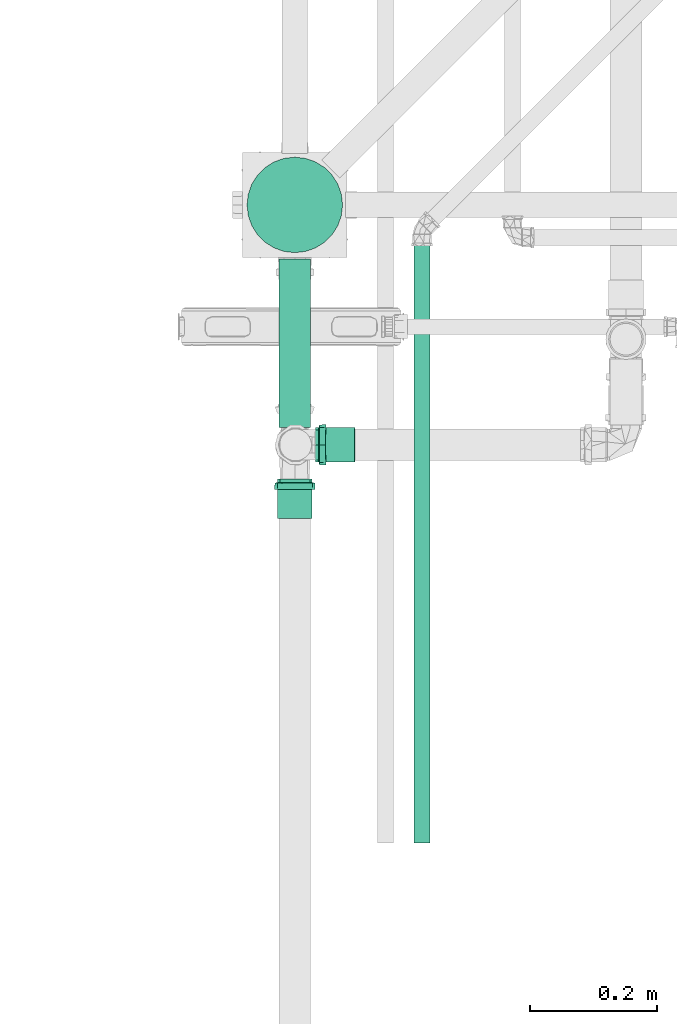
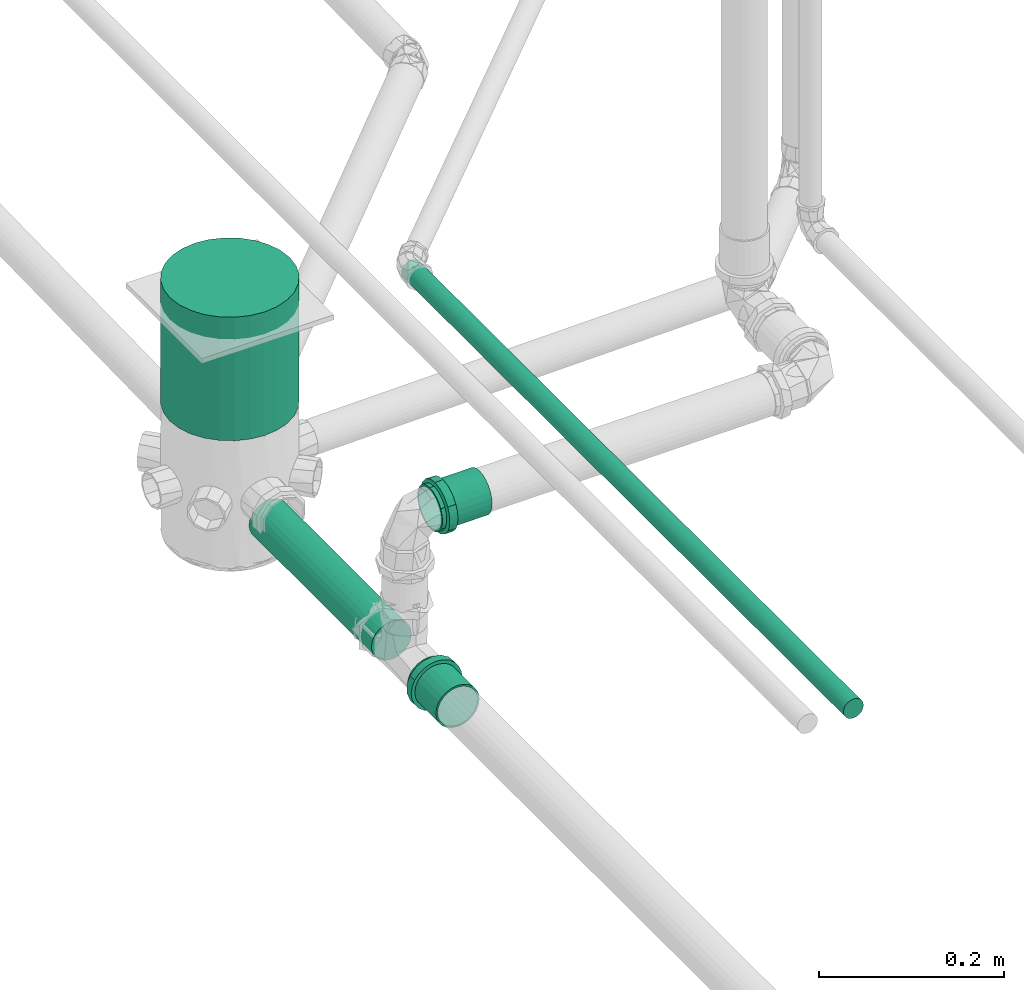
# One storey, part 45 of 589: 3 flow segments, 2 flow fittings.
"""IFC2X3 building model written with IfcOpenShell, lengths in millimetres."""

from ifc_helpers import new_model, entity, si_unit, converted_unit, derived_unit, direction, frame, frame_2d, origin, origin_2d_with_axis, place, context, subcontext, project, spatial, circle, extrude, faceted_brep, source, transform, mapped, material, type_object, type_shapes, element, save


model = new_model("IFC2X3")

# Units and contexts
model_context = context("Model", 3, precision=0.01, world=origin(), true_north=direction((6.123031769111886e-17, 1.0)))
body_context = subcontext(model_context, "Body", "Model", "MODEL_VIEW")
ifc_project = project(units=[si_unit("LENGTHUNIT", "METRE", prefix="MILLI"), si_unit("AREAUNIT", "SQUARE_METRE"), si_unit("VOLUMEUNIT", "CUBIC_METRE"), converted_unit("PLANEANGLEUNIT", "DEGREE", entity("IfcRatioMeasure", 0.017453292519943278), si_unit("PLANEANGLEUNIT", "RADIAN"), dimensions=[0, 0, 0, 0, 0, 0, 0]), si_unit("MASSUNIT", "GRAM", prefix="KILO"), derived_unit("MASSDENSITYUNIT", [(si_unit("MASSUNIT", "GRAM", prefix="KILO"), 1), (si_unit("LENGTHUNIT", "METRE"), -3)]), derived_unit("IONCONCENTRATIONUNIT", [(si_unit("MASSUNIT", "GRAM", prefix="KILO"), 1), (si_unit("LENGTHUNIT", "METRE"), -3)]), derived_unit("MOMENTOFINERTIAUNIT", [(si_unit("LENGTHUNIT", "METRE"), 4)]), si_unit("TIMEUNIT", "SECOND"), si_unit("FREQUENCYUNIT", "HERTZ"), si_unit("THERMODYNAMICTEMPERATUREUNIT", "DEGREE_CELSIUS"), derived_unit("THERMALTRANSMITTANCEUNIT", [(si_unit("MASSUNIT", "GRAM", prefix="KILO"), 1), (si_unit("THERMODYNAMICTEMPERATUREUNIT", "KELVIN"), -1), (si_unit("TIMEUNIT", "SECOND"), -3)]), derived_unit("THERMALCONDUCTANCEUNIT", [(si_unit("MASSUNIT", "GRAM", prefix="KILO"), 1), (si_unit("THERMODYNAMICTEMPERATUREUNIT", "KELVIN"), -1), (si_unit("TIMEUNIT", "SECOND"), -3), (si_unit("LENGTHUNIT", "METRE"), 1)]), derived_unit("VOLUMETRICFLOWRATEUNIT", [(si_unit("LENGTHUNIT", "METRE"), 3), (si_unit("TIMEUNIT", "SECOND"), -1)]), derived_unit("MASSFLOWRATEUNIT", [(si_unit("MASSUNIT", "GRAM", prefix="KILO"), 1), (si_unit("TIMEUNIT", "SECOND"), -1)]), derived_unit("ROTATIONALFREQUENCYUNIT", [(si_unit("TIMEUNIT", "SECOND"), -1)]), si_unit("ELECTRICCURRENTUNIT", "AMPERE"), si_unit("ELECTRICVOLTAGEUNIT", "VOLT"), si_unit("POWERUNIT", "WATT"), si_unit("FORCEUNIT", "NEWTON", prefix="KILO"), si_unit("ILLUMINANCEUNIT", "LUX"), si_unit("LUMINOUSFLUXUNIT", "LUMEN"), si_unit("LUMINOUSINTENSITYUNIT", "CANDELA"), derived_unit("USERDEFINED", [(si_unit("MASSUNIT", "GRAM", prefix="KILO"), -1), (si_unit("LENGTHUNIT", "METRE"), -2), (si_unit("TIMEUNIT", "SECOND"), 3), (si_unit("LUMINOUSFLUXUNIT", "LUMEN"), 1)]), derived_unit("USERDEFINED", [(si_unit("MASSUNIT", "GRAM", prefix="KILO"), 1), (si_unit("TIMEUNIT", "SECOND"), -3), (si_unit("LENGTHUNIT", "METRE"), 3), (si_unit("ELECTRICCURRENTUNIT", "AMPERE"), -2)]), derived_unit("SOUNDPOWERUNIT", [(si_unit("MASSUNIT", "GRAM", prefix="KILO"), 1), (si_unit("TIMEUNIT", "SECOND"), -3), (si_unit("LENGTHUNIT", "METRE"), 2)]), derived_unit("SOUNDPRESSUREUNIT", [(si_unit("MASSUNIT", "GRAM", prefix="KILO"), 1), (si_unit("LENGTHUNIT", "METRE"), -1), (si_unit("TIMEUNIT", "SECOND"), -2)]), derived_unit("LINEARVELOCITYUNIT", [(si_unit("LENGTHUNIT", "METRE"), 1), (si_unit("TIMEUNIT", "SECOND"), -1)]), si_unit("PRESSUREUNIT", "PASCAL"), derived_unit("USERDEFINED", [(si_unit("MASSUNIT", "GRAM", prefix="KILO"), 1), (si_unit("LENGTHUNIT", "METRE"), -2), (si_unit("TIMEUNIT", "SECOND"), -2)]), derived_unit("LINEARFORCEUNIT", [(si_unit("MASSUNIT", "GRAM", prefix="KILO"), 1), (si_unit("TIMEUNIT", "SECOND"), -2)]), derived_unit("PLANARFORCEUNIT", [(si_unit("MASSUNIT", "GRAM", prefix="KILO"), 1), (si_unit("LENGTHUNIT", "METRE"), -1), (si_unit("TIMEUNIT", "SECOND"), -2)]), derived_unit("SPECIFICHEATCAPACITYUNIT", [(si_unit("THERMODYNAMICTEMPERATUREUNIT", "KELVIN"), -1), (si_unit("LENGTHUNIT", "METRE"), 2), (si_unit("TIMEUNIT", "SECOND"), -2)]), derived_unit("HEATINGVALUEUNIT", [(si_unit("LENGTHUNIT", "METRE"), 2), (si_unit("TIMEUNIT", "SECOND"), -2)]), derived_unit("VAPORPERMEABILITYUNIT", [(si_unit("LENGTHUNIT", "METRE"), -1), (si_unit("TIMEUNIT", "SECOND"), 1)]), derived_unit("DYNAMICVISCOSITYUNIT", [(si_unit("MASSUNIT", "GRAM", prefix="KILO"), 1), (si_unit("TIMEUNIT", "SECOND"), -1), (si_unit("LENGTHUNIT", "METRE"), -1)]), derived_unit("THERMALEXPANSIONCOEFFICIENTUNIT", [(si_unit("THERMODYNAMICTEMPERATUREUNIT", "KELVIN"), -1)]), derived_unit("MODULUSOFELASTICITYUNIT", [(si_unit("MASSUNIT", "GRAM", prefix="KILO"), 1), (si_unit("LENGTHUNIT", "METRE"), -1), (si_unit("TIMEUNIT", "SECOND"), -2)]), derived_unit("ISOTHERMALMOISTURECAPACITYUNIT", [(si_unit("LENGTHUNIT", "METRE"), 3), (si_unit("MASSUNIT", "GRAM", prefix="KILO"), -1)]), derived_unit("MOISTUREDIFFUSIVITYUNIT", [(si_unit("TIMEUNIT", "SECOND"), -1), (si_unit("LENGTHUNIT", "METRE"), 2)])], contexts=[model_context])

# Site, building, storey
site_placement = place(None, origin())
site = spatial("IfcSite", under=ifc_project, at=site_placement, Name="Default", CompositionType="ELEMENT")
building_placement = place(site_placement, origin())
building = spatial("IfcBuilding", under=site, at=building_placement, CompositionType="ELEMENT")
storey_placement = place(building_placement, frame((0.0, 0.0, 100.0)))
storey = spatial("IfcBuildingStorey", under=building, at=storey_placement, Name="TÉRREO", CompositionType="ELEMENT", Elevation=100.0)

# Flow segments
pipe_segment_type_1 = type_object("IfcPipeSegmentType", Name="Tipos de tubos:PVC Esgoto Série Normal", PredefinedType="NOTDEFINED")
flow_segment_1_placement = place(storey_placement, origin())
element("IfcFlowSegment", 1, at=flow_segment_1_placement, inside=storey, type_object=pipe_segment_type_1, Name="Tipos de tubos:PVC Esgoto Série Normal", ObjectType="Tipos de tubos:PVC Esgoto Série Normal", context=body_context, shape_type="SweptSolid", body=[
    extrude(circle(Radius=25.0, at=origin_2d_with_axis()), frame((-410.335686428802, -8045.902592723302, -273.1527036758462), z_axis=(0.0, 1.0, 0.0), x_axis=(-1.0, 0.0, 0.0)), (0.0, 0.0, 1.0), 264.5424106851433),
])
flow_segment_2_placement = place(storey_placement, origin())
element("IfcFlowSegment", 2, at=flow_segment_2_placement, inside=storey, type_object=pipe_segment_type_1, Name="Tipos de tubos:PVC Esgoto Série Normal", ObjectType="Tipos de tubos:PVC Esgoto Série Normal", context=body_context, shape_type="SweptSolid", body=[
    extrude(circle(Radius=75.0, at=frame_2d((1.3535839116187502e-13, -6.44563372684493e-25), x_axis=(1.0, 0.0))), frame((-410.32582123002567, -7696.610182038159, -169.43474987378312), z_axis=(-2.5031662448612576e-06, -1.9023514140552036e-06, 1.0), x_axis=(-1.0, 0.0, -2.503166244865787e-06)), (0.0, 0.0, 1.0), 162.9347498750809),
])
pipe_segment_type_2 = type_object("IfcPipeSegmentType", Name="Tipos de tubos:PVC Marrom Soldável", PredefinedType="NOTDEFINED")
flow_segment_3_placement = place(storey_placement, origin())
element("IfcFlowSegment", 3, at=flow_segment_3_placement, inside=storey, type_object=pipe_segment_type_2, Name="Tipos de tubos:PVC Marrom Soldável", ObjectType="Tipos de tubos:PVC Marrom Soldável", context=body_context, shape_type="SweptSolid", body=[
    extrude(circle(Radius=12.5, at=frame_2d((2.408560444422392e-08, 8.459899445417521e-15), x_axis=(1.0, 0.0))), frame((-210.7835592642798, -8698.261221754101, -37.356609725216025), z_axis=(0.0, 1.0, 0.0), x_axis=(-1.0, 0.0, 0.0)), (0.0, 0.0, 1.0), 954.9213718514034),
])

# Flow fittings
ifc_material = material(Name="PVC Série Normal")
pipe_fitting_type = type_object("IfcPipeFittingType", Name="PVC Esgoto_Luva Simples para Conexão_Rodrigo MEP:Standard", PredefinedType="NOTDEFINED", material=ifc_material)
shared_shape = source(origin(), body_context, "Body", "Brep", [
    faceted_brep([(16.599999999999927, 15.900000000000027, -27.53960784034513), (16.599999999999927, 22.485995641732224, -22.485995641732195), (16.599999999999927, 13.599999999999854, -23.555890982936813), (16.599999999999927, 7.039878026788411, -26.273182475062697), (16.599999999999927, 8.2304456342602, -30.71644127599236), (16.599999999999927, 19.233304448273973, -19.233304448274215), (16.599999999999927, 27.539607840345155, -15.899999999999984), (16.599999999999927, 23.55589098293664, -13.600000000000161), (16.599999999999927, 26.273182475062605, -7.03987802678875), (16.599999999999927, 30.716441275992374, -8.230445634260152), (16.599999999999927, 27.2, 0.0), (16.599999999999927, 31.8, 0.0), (16.599999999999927, 26.273182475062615, 7.0398780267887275), (16.599999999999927, 30.71644127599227, 8.23044563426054), (16.599999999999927, 23.555890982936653, 13.60000000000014), (16.599999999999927, 27.539607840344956, 15.900000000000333), (16.599999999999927, 19.233304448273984, 19.2333044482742), (16.599999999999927, 22.485995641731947, 22.48599564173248), (16.599999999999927, 13.599999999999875, 23.555890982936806), (16.599999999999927, 15.899999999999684, 27.53960784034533), (16.599999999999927, 7.039878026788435, 26.27318247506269), (16.599999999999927, 8.230445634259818, 30.716441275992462), (16.599999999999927, 0.0, 27.2), (16.599999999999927, 0.0, 31.8), (16.599999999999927, -7.039878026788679, 26.273182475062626), (16.599999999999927, -8.230445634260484, 30.716441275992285), (16.599999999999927, -13.600000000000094, 23.555890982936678), (16.599999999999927, -15.900000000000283, 27.53960784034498), (16.599999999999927, -19.23330444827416, 19.233304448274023), (16.599999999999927, -22.485995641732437, 22.48599564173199), (16.599999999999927, -23.55589098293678, 13.59999999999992), (16.599999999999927, -27.539607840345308, 15.899999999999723), (16.599999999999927, -30.71644127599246, 8.230445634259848), (16.599999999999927, -26.273182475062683, 7.039878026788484), (16.599999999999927, -31.8, 0.0), (16.599999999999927, -27.2, 0.0), (16.599999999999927, -30.71644127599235, -8.23044563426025), (16.599999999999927, -26.273182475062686, -7.03987802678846), (16.599999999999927, -27.53960784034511, -15.90000000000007), (16.599999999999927, -23.55589098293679, -13.599999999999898), (16.599999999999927, -22.485995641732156, -22.485995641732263), (16.599999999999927, -19.233304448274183, -19.233304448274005), (16.599999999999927, -15.899999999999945, -27.53960784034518), (16.599999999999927, -13.600000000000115, -23.555890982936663), (16.599999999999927, -8.230445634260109, -30.716441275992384), (16.599999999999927, -7.039878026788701, -26.273182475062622), (16.599999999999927, 0.0, -31.8), (16.599999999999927, 0.0, -27.2), (6.500000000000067, -10.708108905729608, 29.429219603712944), (6.500000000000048, -24.359073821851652, 20.44200387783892), (6.500000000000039, -27.120498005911, 15.6595386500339), (6.50000000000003, -29.881922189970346, 10.877073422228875), (6.500000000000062, -15.89769721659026, 27.540937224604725), (6.500000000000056, -20.128385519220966, 23.991470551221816), (6.50000000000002, -30.840961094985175, 5.438536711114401), (6.5000000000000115, -31.8, 0.0), (6.50000000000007, -5.518520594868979, 31.317501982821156), (6.500000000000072, 5.526376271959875, 31.316116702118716), (6.50000000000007, 0.00392783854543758, 31.316809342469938), (6.500000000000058, 20.134403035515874, 23.986420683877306), (6.500000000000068, 10.715490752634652, 29.42653259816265), (6.500000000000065, 15.904605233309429, 27.536948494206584), (6.500000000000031, 29.8846497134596, 10.869577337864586), (6.500000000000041, 27.12442527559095, 15.652735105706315), (6.5000000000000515, 24.364200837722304, 20.435892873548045), (6.5000000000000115, 31.8, 0.0), (6.499999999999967, 24.364200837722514, -20.435892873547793), (6.499999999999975, 27.12442527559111, -15.652735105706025), (6.499999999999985, 29.884649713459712, -10.869577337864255), (6.4999999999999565, 15.904605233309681, -27.53694849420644), (6.499999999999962, 20.134403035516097, -23.986420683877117), (6.499999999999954, 10.715490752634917, -29.42653259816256), (6.499999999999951, 5.526376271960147, -31.31611670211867), (6.499999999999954, -5.518520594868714, -31.317501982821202), (6.499999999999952, 0.003927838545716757, -31.316809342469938), (6.499999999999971, -20.128385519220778, -23.99147055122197), (6.499999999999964, -15.897697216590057, -27.54093722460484), (6.499999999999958, -10.70810890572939, -29.42921960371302), (6.499999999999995, -29.881922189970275, -10.877073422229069), (6.499999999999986, -27.12049800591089, -15.659538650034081), (6.499999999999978, -24.359073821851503, -20.442003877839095), (6.500000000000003, -30.840961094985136, -5.438536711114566), (6.499999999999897, -30.696173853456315, -6.259599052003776), (62.0, 13.600000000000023, -23.55589098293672), (62.0, 19.233304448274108, -19.23330444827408), (62.0, 12.499999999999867, -21.650635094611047), (62.0, 6.470476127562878, -24.14814565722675), (62.0, 7.039878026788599, -26.273182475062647), (62.0, 17.677669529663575, -17.677669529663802), (62.0, 23.55589098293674, -13.599999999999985), (62.0, 21.65063509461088, -12.50000000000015), (62.0, 24.148145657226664, -6.470476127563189), (62.0, 26.27318247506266, -7.039878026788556), (62.0, 25.0, 0.0), (62.0, 27.2, 0.0), (62.0, 24.148145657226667, 6.4704761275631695), (62.0, 26.273182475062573, 7.03987802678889), (62.0, 21.650635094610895, 12.500000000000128), (62.0, 23.555890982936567, 13.600000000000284), (62.0, 17.67766952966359, 17.67766952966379), (62.0, 19.233304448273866, 19.233304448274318), (62.0, 12.499999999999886, 21.650635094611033), (62.0, 13.59999999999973, 23.55589098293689), (62.0, 6.4704761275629, 24.14814565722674), (62.0, 7.039878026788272, 26.273182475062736), (62.0, 0.0, 25.0), (62.0, 0.0, 27.2), (62.0, -6.470476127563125, 24.148145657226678), (62.0, -7.039878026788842, 26.273182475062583), (62.0, -12.500000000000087, 21.650635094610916), (62.0, -13.600000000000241, 23.555890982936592), (62.0, -17.677669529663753, 17.677669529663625), (62.0, -19.233304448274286, 19.2333044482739), (62.0, -21.65063509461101, 12.499999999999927), (62.0, -23.555890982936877, 13.599999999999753), (62.0, -26.27318247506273, 7.039878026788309), (62.0, -24.14814565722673, 6.470476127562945), (62.0, -27.2, 0.0), (62.0, -25.0, 0.0), (62.0, -26.27318247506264, -7.0398780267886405), (62.0, -24.148145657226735, -6.470476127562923), (62.0, -23.5558909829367, -13.600000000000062), (62.0, -21.650635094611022, -12.499999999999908), (62.0, -19.233304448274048, -19.233304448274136), (62.0, -17.67766952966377, -17.677669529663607), (62.0, -13.599999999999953, -23.555890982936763), (62.0, -12.500000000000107, -21.650635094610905), (62.0, -7.039878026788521, -26.27318247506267), (62.0, -6.470476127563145, -24.148145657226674), (62.0, 0.0, -27.2), (62.0, 0.0, -25.0), (0.0, 12.499999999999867, -21.650635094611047), (0.0, 19.233304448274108, -19.23330444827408), (0.0, 13.600000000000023, -23.55589098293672), (0.0, 6.470476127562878, -24.14814565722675), (0.0, 17.677669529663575, -17.677669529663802), (0.0, 23.55589098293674, -13.599999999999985), (0.0, 21.65063509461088, -12.50000000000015), (0.0, 24.148145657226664, -6.470476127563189), (0.0, 26.27318247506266, -7.039878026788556), (0.0, 25.0, 0.0), (0.0, 27.2, 0.0), (0.0, 24.148145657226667, 6.4704761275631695), (0.0, 26.273182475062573, 7.03987802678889), (0.0, 21.650635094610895, 12.500000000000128), (0.0, 23.555890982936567, 13.600000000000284), (0.0, 17.67766952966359, 17.67766952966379), (0.0, 19.233304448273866, 19.233304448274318), (0.0, 12.499999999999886, 21.650635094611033), (0.0, 13.59999999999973, 23.55589098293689), (0.0, 6.4704761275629, 24.14814565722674), (0.0, 7.039878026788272, 26.273182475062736), (0.0, 0.0, 25.0), (0.0, 0.0, 27.2), (0.0, -6.470476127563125, 24.148145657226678), (0.0, -7.039878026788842, 26.273182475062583), (0.0, -12.500000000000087, 21.650635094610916), (0.0, -13.600000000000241, 23.555890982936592), (0.0, -17.677669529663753, 17.677669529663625), (0.0, -19.233304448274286, 19.2333044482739), (0.0, -21.65063509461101, 12.499999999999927), (0.0, -23.555890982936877, 13.599999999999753), (0.0, -26.27318247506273, 7.039878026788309), (0.0, -24.14814565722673, 6.470476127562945), (0.0, -27.2, 0.0), (0.0, -25.0, 0.0), (0.0, -26.27318247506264, -7.0398780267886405), (0.0, -24.148145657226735, -6.470476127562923), (0.0, -23.5558909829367, -13.600000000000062), (0.0, -21.650635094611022, -12.499999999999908), (0.0, -19.233304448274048, -19.233304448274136), (0.0, -17.67766952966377, -17.677669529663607), (0.0, -13.599999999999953, -23.555890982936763), (0.0, -12.500000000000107, -21.650635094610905), (0.0, -7.039878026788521, -26.27318247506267), (0.0, -6.470476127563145, -24.148145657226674), (0.0, 0.0, -27.2), (0.0, 0.0, -25.0), (0.0, 7.039878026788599, -26.273182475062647), (5.300000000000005, -26.37968999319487, 4.651830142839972), (5.299999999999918, -26.25584678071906, 5.354122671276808), (5.300000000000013, -25.559379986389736, 9.303660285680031), (5.300000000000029, -20.835434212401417, 17.48498444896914), (5.300000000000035, -17.216732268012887, 20.521006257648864), (5.300000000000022, -23.19740709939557, 13.394322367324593), (5.3000000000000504, -4.720244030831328, 26.787297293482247), (5.300000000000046, -9.15913717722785, 25.172162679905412), (5.299999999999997, -27.2, 0.0), (5.300000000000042, -13.598030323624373, 23.557028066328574), (5.300000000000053, 9.165451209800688, 25.169864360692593), (5.300000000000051, 13.603939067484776, 23.55361632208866), (5.300000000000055, 4.7269633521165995, 26.786112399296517), (5.300000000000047, 17.221879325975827, 20.516686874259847), (5.300000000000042, 20.839819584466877, 17.479757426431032), (5.3000000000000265, 25.56171296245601, 9.297248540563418), (5.299999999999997, 27.2, 0.0), (5.3000000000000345, 23.20076627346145, 13.388502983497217), (5.300000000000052, 0.003359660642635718, 26.786704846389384), (5.299999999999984, 25.56171296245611, -9.29724854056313), (5.299999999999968, 20.839819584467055, -17.47975742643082), (5.2999999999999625, 17.22187932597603, -20.516686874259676), (5.299999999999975, 23.200766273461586, -13.388502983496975), (5.299999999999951, 4.726963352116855, -26.78611239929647), (5.2999999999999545, 9.165451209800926, -25.169864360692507), (5.299999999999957, 13.603939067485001, -23.553616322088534), (5.29999999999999, -26.379689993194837, -4.651830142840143), (5.299999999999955, -9.159137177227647, -25.17216267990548), (5.299999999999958, -13.5980303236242, -23.55702806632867), (5.299999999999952, -4.720244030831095, -26.787297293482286), (5.299999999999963, -17.216732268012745, -20.52100625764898), (5.299999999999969, -20.83543421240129, -17.484984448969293), (5.299999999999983, -25.559379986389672, -9.303660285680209), (5.299999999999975, -23.197407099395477, -13.394322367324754), (5.299999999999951, 0.003359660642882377, -26.78670484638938), (39.0, -25.0, 0.0), (39.0, 25.0, 0.0)], [[[0, 1, 2]], [[0, 2, 3]], [[3, 4, 0]], [[2, 1, 5]], [[6, 5, 1]], [[7, 5, 6]], [[8, 7, 6]], [[8, 6, 9]], [[8, 9, 10]], [[10, 9, 11]], [[12, 10, 11]], [[12, 11, 13]], [[14, 12, 13]], [[14, 13, 15]], [[16, 14, 15]], [[15, 17, 16]], [[17, 18, 16]], [[17, 19, 18]], [[18, 19, 20]], [[21, 20, 19]], [[20, 21, 22]], [[22, 21, 23]], [[22, 23, 24]], [[24, 23, 25]], [[24, 25, 26]], [[27, 26, 25]], [[27, 28, 26]], [[28, 27, 29]], [[30, 28, 29]], [[31, 30, 29]], [[32, 30, 31]], [[33, 30, 32]], [[33, 32, 34]], [[35, 33, 34]], [[36, 35, 34]], [[36, 37, 35]], [[37, 36, 38]], [[39, 37, 38]], [[39, 38, 40]], [[39, 40, 41]], [[40, 42, 41]], [[41, 42, 43]], [[43, 42, 44]], [[44, 45, 43]], [[46, 45, 44]], [[4, 47, 46]], [[46, 47, 45]], [[4, 3, 47]], [[48, 27, 25]], [[31, 29, 49]], [[31, 49, 50, 51]], [[52, 53, 27]], [[32, 51, 54]], [[54, 55, 34]], [[54, 34, 32]], [[25, 56, 48]], [[49, 29, 53]], [[23, 57, 58, 56]], [[59, 19, 17]], [[27, 53, 29]], [[48, 52, 27]], [[31, 51, 32]], [[57, 23, 21]], [[60, 19, 61]], [[15, 62, 63, 64]], [[19, 60, 21]], [[15, 13, 62]], [[17, 64, 59]], [[57, 21, 60]], [[23, 56, 25]], [[15, 64, 17]], [[13, 65, 62]], [[13, 11, 65]], [[59, 61, 19]], [[65, 11, 9]], [[6, 1, 66]], [[6, 66, 67, 68]], [[69, 70, 0]], [[68, 65, 9]], [[71, 69, 0]], [[71, 0, 4]], [[4, 72, 71]], [[66, 1, 70]], [[46, 73, 74, 72]], [[75, 76, 42]], [[0, 70, 1]], [[75, 42, 40]], [[6, 68, 9]], [[73, 46, 44]], [[77, 42, 76]], [[38, 78, 79, 80]], [[42, 77, 44]], [[38, 36, 78]], [[40, 80, 75]], [[73, 44, 77]], [[46, 72, 4]], [[38, 80, 40]], [[36, 81, 82, 78]], [[55, 81, 34]], [[34, 81, 36]], [[83, 84, 85]], [[83, 85, 86]], [[86, 87, 83]], [[85, 84, 88]], [[89, 88, 84]], [[88, 89, 90]], [[90, 89, 91]], [[92, 91, 89]], [[92, 93, 91]], [[93, 92, 94]], [[95, 93, 94]], [[94, 96, 95]], [[95, 96, 97]], [[98, 97, 96]], [[97, 98, 99]], [[99, 98, 100]], [[101, 99, 100]], [[100, 102, 101]], [[101, 102, 103]], [[104, 103, 102]], [[103, 104, 105]], [[105, 104, 106]], [[105, 106, 107]], [[107, 106, 108]], [[107, 108, 109]], [[110, 109, 108]], [[110, 111, 109]], [[111, 110, 112]], [[112, 113, 111]], [[114, 113, 112]], [[113, 114, 115]], [[115, 116, 113]], [[117, 116, 115]], [[117, 118, 116]], [[119, 118, 117]], [[119, 120, 118]], [[120, 119, 121]], [[121, 122, 120]], [[122, 121, 123]], [[122, 123, 124]], [[123, 125, 124]], [[124, 125, 126]], [[126, 125, 127]], [[127, 128, 126]], [[129, 128, 127]], [[87, 130, 129]], [[129, 130, 128]], [[87, 86, 130]], [[131, 132, 133]], [[134, 131, 133]], [[135, 132, 131]], [[132, 135, 136]], [[137, 136, 135]], [[138, 136, 137]], [[136, 138, 139]], [[138, 140, 139]], [[141, 139, 140]], [[141, 140, 142]], [[142, 143, 141]], [[144, 143, 142]], [[143, 144, 145]], [[146, 145, 144]], [[147, 145, 146]], [[147, 146, 148]], [[148, 149, 147]], [[150, 149, 148]], [[149, 150, 151]], [[152, 151, 150]], [[153, 151, 152]], [[154, 153, 152]], [[155, 153, 154]], [[156, 155, 154]], [[155, 156, 157]], [[156, 158, 157]], [[159, 157, 158]], [[158, 160, 159]], [[159, 160, 161]], [[162, 161, 160]], [[160, 163, 162]], [[162, 163, 164]], [[163, 165, 164]], [[164, 165, 166]], [[165, 167, 166]], [[168, 166, 167]], [[167, 169, 168]], [[170, 168, 169]], [[171, 170, 169]], [[171, 172, 170]], [[173, 172, 171]], [[174, 172, 173]], [[173, 175, 174]], [[174, 175, 176]], [[175, 177, 176]], [[177, 134, 178]], [[176, 177, 178]], [[133, 178, 134]], [[162, 179, 180, 181]], [[159, 182, 183]], [[182, 161, 181, 184]], [[185, 155, 186]], [[161, 162, 181]], [[187, 179, 164]], [[183, 188, 157]], [[183, 157, 159]], [[161, 182, 159]], [[189, 190, 149]], [[189, 149, 151]], [[157, 188, 186]], [[157, 186, 155]], [[153, 155, 185]], [[164, 179, 162]], [[151, 191, 189]], [[147, 192, 193]], [[143, 194, 195]], [[194, 145, 193, 196]], [[143, 195, 141]], [[10, 12, 96, 94]], [[149, 192, 147]], [[153, 185, 197, 191]], [[153, 191, 151]], [[145, 147, 193]], [[190, 192, 149]], [[145, 194, 143]], [[139, 195, 198]], [[132, 199, 200]], [[199, 136, 198, 201]], [[202, 178, 203]], [[136, 139, 198]], [[139, 141, 195]], [[92, 8, 10, 94]], [[133, 203, 178]], [[200, 204, 133]], [[136, 199, 132]], [[205, 164, 166]], [[206, 207, 172]], [[133, 204, 203]], [[206, 172, 174]], [[176, 178, 202]], [[200, 133, 132]], [[174, 208, 206]], [[170, 209, 210]], [[166, 211, 205]], [[211, 168, 210, 212]], [[168, 211, 166]], [[172, 209, 170]], [[176, 202, 213, 208]], [[176, 208, 174]], [[168, 170, 210]], [[207, 209, 172]], [[205, 187, 164]], [[116, 118, 214, 165, 163]], [[156, 109, 111, 158]], [[111, 113, 160, 158]], [[113, 116, 163, 160]], [[107, 109, 156, 154]], [[154, 152, 105, 107]], [[103, 105, 152, 150]], [[103, 150, 148, 101]], [[142, 95, 97, 144]], [[97, 99, 146, 144]], [[99, 101, 148, 146]], [[93, 95, 142, 140, 215]], [[215, 140, 138, 91, 93]], [[135, 131, 85, 88]], [[90, 91, 138, 137]], [[90, 137, 135, 88]], [[86, 85, 131, 134]], [[134, 177, 130, 86]], [[128, 130, 177, 175]], [[128, 175, 173, 126]], [[167, 120, 122, 169]], [[122, 124, 171, 169]], [[124, 126, 173, 171]], [[118, 120, 167, 165, 214]], [[211, 78, 82, 81, 55, 187, 205]], [[79, 78, 211, 212, 210, 80]], [[75, 80, 210, 209, 207, 76]], [[207, 206, 208, 73, 77, 76]], [[213, 202, 72, 74, 73, 208]], [[203, 204, 69, 71, 72, 202]], [[198, 195, 65, 68]], [[199, 201, 198, 68, 67, 66]], [[204, 200, 199, 66, 70, 69]], [[195, 194, 62, 65]], [[197, 185, 56, 58, 57, 191]], [[63, 62, 194, 196, 193, 64]], [[57, 60, 61, 190, 189, 191]], [[193, 192, 190, 61, 59, 64]], [[48, 56, 185, 186, 188, 52]], [[187, 55, 54, 51, 181, 180, 179]], [[182, 184, 181, 51, 50, 49]], [[188, 183, 182, 49, 53, 52]], [[30, 33, 115, 114]], [[117, 115, 33, 35]], [[26, 28, 112, 110]], [[114, 112, 28, 30]], [[24, 26, 110, 108]], [[108, 106, 22, 24]], [[18, 20, 104, 102]], [[100, 16, 18, 102]], [[12, 14, 98, 96]], [[100, 98, 14, 16]], [[104, 20, 22, 106]], [[89, 7, 8, 92]], [[83, 87, 3, 2]], [[7, 89, 84, 5]], [[83, 2, 5, 84]], [[87, 129, 47, 3]], [[43, 45, 127, 125]], [[123, 41, 43, 125]], [[37, 39, 121, 119]], [[123, 121, 39, 41]], [[35, 37, 119, 117]], [[127, 45, 47, 129]]]),
])
type_shapes(pipe_fitting_type, [shared_shape])
for number, where, z_axis, x_axis, name in (
    (4, (-378.1234355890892, -8073.302592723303, -93.5441402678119), (0.0, 1.0, 0.0), (0.9999500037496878, 0.0, 0.009999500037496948), "PVC Esgoto_Luva Simples para Conexão_Rodrigo MEP:Standard"),
    (5, (-410.3356864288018, -8126.902592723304, -273.1527036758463), (-0.9999657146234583, 0.0, 0.00828067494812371), (0.0, -1.0, 0.0), "PVC Esgoto_Luva Simples para Conexão_Rodrigo MEP:Standard"),
):
    element("IfcFlowFitting", number, at=place(storey_placement, frame(where, z_axis=z_axis, x_axis=x_axis)), inside=storey, type_object=pipe_fitting_type, material=ifc_material, Name=name, ObjectType="PVC Esgoto_Luva Simples para Conexão_Rodrigo MEP:Standard", context=body_context, shape_type="MappedRepresentation", body=[
        mapped(shared_shape, transform((0.0, 0.0, 0.0), scale=1.0)),
    ])

save(model, "model.ifc")
